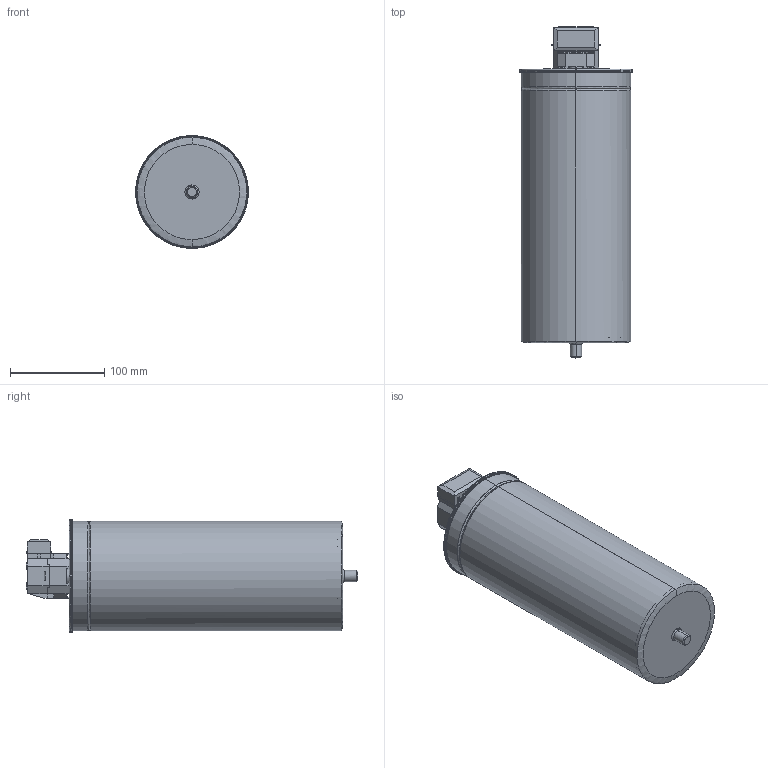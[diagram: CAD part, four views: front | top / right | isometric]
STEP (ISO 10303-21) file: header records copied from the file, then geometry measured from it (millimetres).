
FILE_DESCRIPTION (( 'STEP AP203' ), '1' );
FILE_NAME ('M1901.STEP', '2022-12-16T11:56:57', ( '' ), ( '' ), 'SwSTEP 2.0', 'SolidWorks 2021', '' );
FILE_SCHEMA (( 'CONFIG_CONTROL_DESIGN' ));
Length unit declared in the file: millimetre
Products named in the file (22): 316200500_CIANFRINATO; CUST116X290_AGGR; 316181767_AGGRAFF; 316163300; 316170520_SCHIACCIATO; 316191900_2; 316191880_1; 316191880; 316191900; 316170520_SCHIACCIATO_2; 316191900_1; 316523311; 316163554; M1901; 316043790; 316191880_2; 316200500_CIANFRINATO_1; 316170520_SCHIACCIATO_1; 316200500_CIANFRINATO_2; 316163556; 316163557; 31614_D116_AGGR
Assembly tree (21 placements, depth 3):
  M1901
    CUST116X290_AGGR
    31614_D116_AGGR
      316181767_AGGRAFF
      316170520_SCHIACCIATO
      316170520_SCHIACCIATO_1
      316170520_SCHIACCIATO_2
      316043790
      316163554
      316191880
      316191880_1
      316191880_2
      316200500_CIANFRINATO
      316200500_CIANFRINATO_1
      316200500_CIANFRINATO_2
    316163557
    316523311
      316163556
      316191900
      316191900_1
      316191900_2
      316163300
Bounding box: 119.4 x 351.6 x 119.31 mm (x, y, z)
Volume: 43845.8 mm3; surface area: 329025.4 mm2
Topology: 18 solids, 21 shells, 1418 faces, 3744 edges, 2418 vertices
Faces by surface type: plane 993, bspline 425
Entity records: 83126 total; most frequent: CARTESIAN_POINT 49102, ORIENTED_EDGE 7484, DIRECTION 4658, EDGE_CURVE 3744, LINE 2618, VECTOR 2618, VERTEX_POINT 2418, EDGE_LOOP 1570
